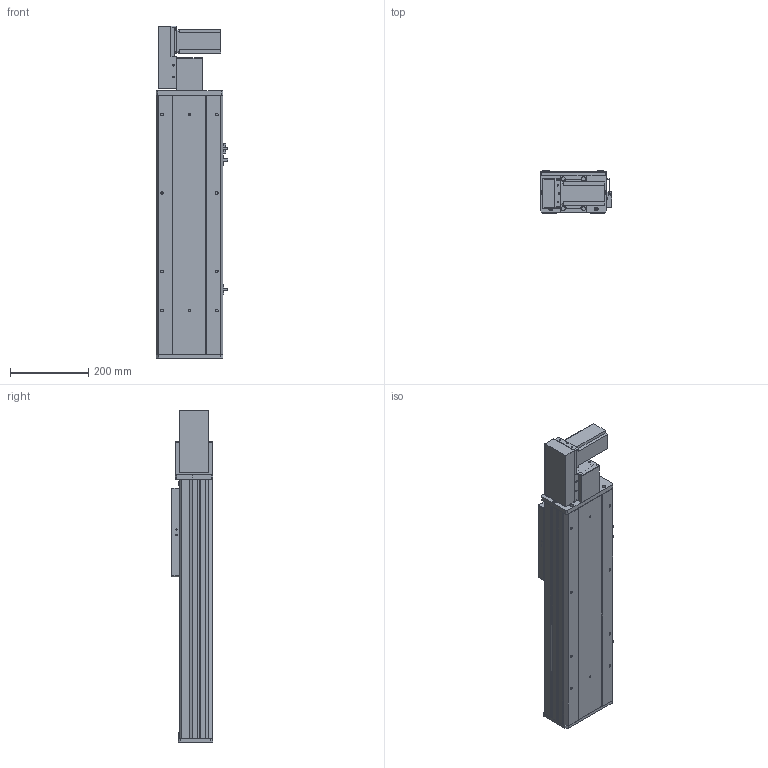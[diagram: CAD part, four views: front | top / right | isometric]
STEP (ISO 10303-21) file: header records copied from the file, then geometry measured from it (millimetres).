
FILE_DESCRIPTION (( 'STEP AP203' ), '1' );
FILE_NAME ('Y170CB-D105-S350-BL-P400W.STEP', '2020-02-20T01:04:35', ( '微软用户' ), ( '微软中国' ), 'SwSTEP 2.0', 'SolidWorks 2017', '' );
FILE_SCHEMA (( 'CONFIG_CONTROL_DESIGN' ));
Length unit declared in the file: millimetre
Products named in the file (18): Y100-135俋离換覜ん--; 70CB-掛极-; Y170CB-陔俋离換覜結え---; --70CB --喘謫眊楊擘啣-; 70B喘謫眊----; 70CB-耜裔啣-; Y1埴倛裔; 70C--詩湍揤踡え-; B-源倛裔啣; Y170CB-D105-S350-BL-P400W; 70CB--耜裔; 17B-耜蚾蟀諉啣----; 70C-雄赽釱-奻-; 0B-萇儂楊擘啣; 0C--雄赽釱俋欶-170; san松下电机400不带刹车----; 70CB-詩湍--; Y70俋欶BR----
Assembly tree (21 placements, depth 2):
  Y170CB-D105-S350-BL-P400W
    B-源倛裔啣
    17B-耜蚾蟀諉啣----
    0B-萇儂楊擘啣
    san松下电机400不带刹车----
    Y70俋欶BR----
    70CB-掛极-
    --70CB --喘謫眊楊擘啣-
    70CB-耜裔啣-  x2
    70C--詩湍揤踡え-  x2
    70CB--耜裔
    70C-雄赽釱-奻-
    0C--雄赽釱俋欶-170
    70CB-詩湍--
    Y100-135俋离換覜ん--  x3
    Y170CB-陔俋离換覜結え---
    70B喘謫眊----
    Y1埴倛裔
Bounding box: 183.5 x 107 x 847 mm (x, y, z)
Volume: 3978042.6 mm3; surface area: 1409435.5 mm2
Topology: 21 solids, 21 shells, 983 faces, 2621 edges, 1738 vertices
Faces by surface type: cylinder 495, plane 464, cone 24
Entity records: 31152 total; most frequent: CARTESIAN_POINT 5676, DIRECTION 5062, ORIENTED_EDGE 4724, EDGE_CURVE 2362, AXIS2_PLACEMENT_3D 1844, VERTEX_POINT 1568, VECTOR 1374, LINE 1374
